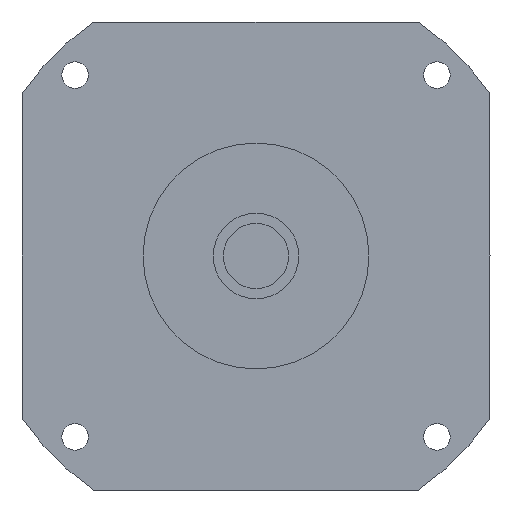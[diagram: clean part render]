
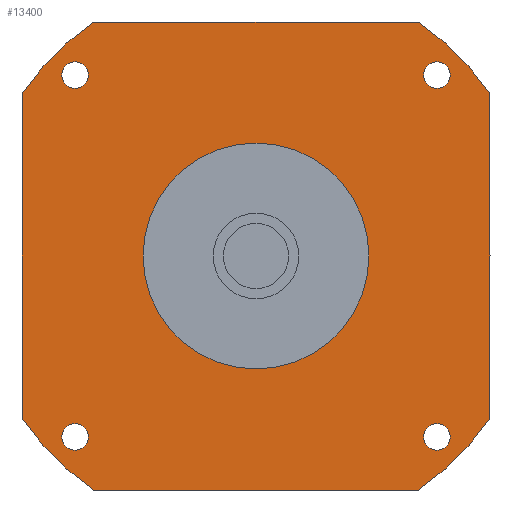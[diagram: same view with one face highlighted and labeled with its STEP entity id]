
A CAD part, left-side view. The second image highlights one B-rep face of the part: STEP entity #13400.
In plain terms, the highlighted planar face has unit normal (-1, 0, 0) as drawn and (0, 0, -1) by its records, which use the part's own axes.
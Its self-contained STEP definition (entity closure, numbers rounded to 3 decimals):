
#11730=CARTESIAN_POINT('',(-41.199,44.449,-47.4));
#11740=VERTEX_POINT('',#11730);
#11770=CARTESIAN_POINT('',(-44.449,44.449,-47.4));
#11780=DIRECTION('',(0.,0.,-1.));
#11790=DIRECTION('',(-1.,0.,0.));
#11800=AXIS2_PLACEMENT_3D('',#11770,#11780,#11790);
#11810=CIRCLE('',#11800,3.25);
#11820=CARTESIAN_POINT('',(-47.699,44.449,-47.4));
#11830=VERTEX_POINT('',#11820);
#11840=EDGE_CURVE('',#11830,#11740,#11810,.T.);
#11960=CARTESIAN_POINT('',(57.5,57.5,-47.4));
#11970=DIRECTION('',(0.,0.,-1.));
#11980=DIRECTION('',(1.,0.,0.));
#11990=AXIS2_PLACEMENT_3D('',#11960,#11970,#11980);
#12000=PLANE('',#11990);
#12010=CARTESIAN_POINT('',(-44.449,-44.449,-47.4));
#12020=DIRECTION('',(0.,0.,-1.));
#12030=DIRECTION('',(0.,-1.,0.));
#12040=AXIS2_PLACEMENT_3D('',#12010,#12020,#12030);
#12050=CIRCLE('',#12040,3.25);
#12060=CARTESIAN_POINT('',(-44.449,-47.699,-47.4));
#12070=VERTEX_POINT('',#12060);
#12080=CARTESIAN_POINT('',(-44.449,-41.199,-47.4));
#12090=VERTEX_POINT('',#12080);
#12100=EDGE_CURVE('',#12070,#12090,#12050,.T.);
#12110=ORIENTED_EDGE('',*,*,#12100,.F.);
#12120=EDGE_CURVE('',#12090,#12070,#12050,.T.);
#12130=ORIENTED_EDGE('',*,*,#12120,.F.);
#12140=EDGE_LOOP('',(#12130,#12110));
#12150=FACE_BOUND('',#12140,.T.);
#12160=ORIENTED_EDGE('',*,*,#11840,.F.);
#12170=EDGE_CURVE('',#11740,#11830,#11810,.T.);
#12180=ORIENTED_EDGE('',*,*,#12170,.F.);
#12190=EDGE_LOOP('',(#12180,#12160));
#12200=FACE_BOUND('',#12190,.T.);
#12210=CARTESIAN_POINT('',(44.449,44.449,-47.4));
#12220=DIRECTION('',(0.,0.,-1.));
#12230=DIRECTION('',(0.,1.,0.));
#12240=AXIS2_PLACEMENT_3D('',#12210,#12220,#12230);
#12250=CIRCLE('',#12240,3.25);
#12260=CARTESIAN_POINT('',(44.449,47.699,-47.4));
#12270=VERTEX_POINT('',#12260);
#12280=CARTESIAN_POINT('',(44.449,41.199,-47.4));
#12290=VERTEX_POINT('',#12280);
#12300=EDGE_CURVE('',#12270,#12290,#12250,.T.);
#12310=ORIENTED_EDGE('',*,*,#12300,.F.);
#12320=EDGE_CURVE('',#12290,#12270,#12250,.T.);
#12330=ORIENTED_EDGE('',*,*,#12320,.F.);
#12340=EDGE_LOOP('',(#12330,#12310));
#12350=FACE_BOUND('',#12340,.T.);
#12360=CARTESIAN_POINT('',(0.,0.,
-47.4));
#12370=DIRECTION('',(0.,0.,1.));
#12380=DIRECTION('',(0.,1.,0.));
#12390=AXIS2_PLACEMENT_3D('',#12360,#12370,#12380);
#12400=CIRCLE('',#12390,27.76);
#12410=CARTESIAN_POINT('',(-27.76,0.,-47.4));
#12420=VERTEX_POINT('',#12410);
#12430=CARTESIAN_POINT('',(27.76,0.,-47.4));
#12440=VERTEX_POINT('',#12430);
#12450=EDGE_CURVE('',#12420,#12440,#12400,.T.);
#12460=ORIENTED_EDGE('',*,*,#12450,.T.);
#12470=CARTESIAN_POINT('',(0.,27.76,-47.4));
#12480=VERTEX_POINT('',#12470);
#12490=EDGE_CURVE('',#12480,#12420,#12400,.T.);
#12500=ORIENTED_EDGE('',*,*,#12490,.T.);
#12510=EDGE_CURVE('',#12440,#12480,#12400,.T.);
#12520=ORIENTED_EDGE('',*,*,#12510,.T.);
#12530=EDGE_LOOP('',(#12520,#12500,#12460));
#12540=FACE_BOUND('',#12530,.T.);
#12550=CARTESIAN_POINT('',(-57.5,57.5,-47.4));
#12560=DIRECTION('',(1.,0.,0.));
#12570=VECTOR('',#12560,1000.);
#12580=LINE('',#12550,#12570);
#12590=CARTESIAN_POINT('',(-39.922,57.5,-47.4));
#12600=VERTEX_POINT('',#12590);
#12610=CARTESIAN_POINT('',(39.922,57.5,-47.4));
#12620=VERTEX_POINT('',#12610);
#12630=EDGE_CURVE('',#12600,#12620,#12580,.T.);
#12640=ORIENTED_EDGE('',*,*,#12630,.T.);
#12650=CARTESIAN_POINT('',(0.,0.,
-47.4));
#12660=DIRECTION('',(0.,0.,-1.));
#12670=DIRECTION('',(1.,0.,0.));
#12680=AXIS2_PLACEMENT_3D('',#12650,#12660,#12670);
#12690=CIRCLE('',#12680,70.);
#12700=CARTESIAN_POINT('',(-57.5,39.922,-47.4));
#12710=VERTEX_POINT('',#12700);
#12720=EDGE_CURVE('',#12710,#12600,#12690,.T.);
#12730=ORIENTED_EDGE('',*,*,#12720,.T.);
#12740=CARTESIAN_POINT('',(-57.5,-57.5,-47.4));
#12750=DIRECTION('',(0.,1.,0.));
#12760=VECTOR('',#12750,1000.);
#12770=LINE('',#12740,#12760);
#12780=CARTESIAN_POINT('',(-57.5,-39.922,-47.4));
#12790=VERTEX_POINT('',#12780);
#12800=EDGE_CURVE('',#12790,#12710,#12770,.T.);
#12810=ORIENTED_EDGE('',*,*,#12800,.T.);
#12820=CARTESIAN_POINT('',(0.,0.,
-47.4));
#12830=DIRECTION('',(0.,0.,-1.));
#12840=DIRECTION('',(1.,0.,0.));
#12850=AXIS2_PLACEMENT_3D('',#12820,#12830,#12840);
#12860=CIRCLE('',#12850,70.);
#12870=CARTESIAN_POINT('',(-39.922,-57.5,-47.4));
#12880=VERTEX_POINT('',#12870);
#12890=EDGE_CURVE('',#12880,#12790,#12860,.T.);
#12900=ORIENTED_EDGE('',*,*,#12890,.T.);
#12910=CARTESIAN_POINT('',(57.5,-57.5,-47.4));
#12920=DIRECTION('',(-1.,0.,0.));
#12930=VECTOR('',#12920,1000.);
#12940=LINE('',#12910,#12930);
#12950=CARTESIAN_POINT('',(39.922,-57.5,-47.4));
#12960=VERTEX_POINT('',#12950);
#12970=EDGE_CURVE('',#12960,#12880,#12940,.T.);
#12980=ORIENTED_EDGE('',*,*,#12970,.T.);
#12990=CARTESIAN_POINT('',(0.,0.,
-47.4));
#13000=DIRECTION('',(0.,0.,-1.));
#13010=DIRECTION('',(1.,0.,0.));
#13020=AXIS2_PLACEMENT_3D('',#12990,#13000,#13010);
#13030=CIRCLE('',#13020,70.);
#13040=CARTESIAN_POINT('',(57.5,-39.922,-47.4));
#13050=VERTEX_POINT('',#13040);
#13060=EDGE_CURVE('',#13050,#12960,#13030,.T.);
#13070=ORIENTED_EDGE('',*,*,#13060,.T.);
#13080=CARTESIAN_POINT('',(57.5,57.5,-47.4));
#13090=DIRECTION('',(0.,-1.,0.));
#13100=VECTOR('',#13090,1000.);
#13110=LINE('',#13080,#13100);
#13120=CARTESIAN_POINT('',(57.5,39.922,-47.4));
#13130=VERTEX_POINT('',#13120);
#13140=EDGE_CURVE('',#13130,#13050,#13110,.T.);
#13150=ORIENTED_EDGE('',*,*,#13140,.T.);
#13160=CARTESIAN_POINT('',(0.,0.,
-47.4));
#13170=DIRECTION('',(0.,0.,-1.));
#13180=DIRECTION('',(1.,0.,0.));
#13190=AXIS2_PLACEMENT_3D('',#13160,#13170,#13180);
#13200=CIRCLE('',#13190,70.);
#13210=EDGE_CURVE('',#12620,#13130,#13200,.T.);
#13220=ORIENTED_EDGE('',*,*,#13210,.T.);
#13230=EDGE_LOOP('',(#13220,#13150,#13070,#12980,#12900,#12810,#12730,
#12640));
#13240=FACE_OUTER_BOUND('',#13230,.T.);
#13250=CARTESIAN_POINT('',(44.449,-44.449,-47.4));
#13260=DIRECTION('',(0.,0.,-1.));
#13270=DIRECTION('',(1.,0.,0.));
#13280=AXIS2_PLACEMENT_3D('',#13250,#13260,#13270);
#13290=CIRCLE('',#13280,3.25);
#13300=CARTESIAN_POINT('',(47.699,-44.449,-47.4));
#13310=VERTEX_POINT('',#13300);
#13320=CARTESIAN_POINT('',(41.199,-44.449,-47.4));
#13330=VERTEX_POINT('',#13320);
#13340=EDGE_CURVE('',#13310,#13330,#13290,.T.);
#13350=ORIENTED_EDGE('',*,*,#13340,.F.);
#13360=EDGE_CURVE('',#13330,#13310,#13290,.T.);
#13370=ORIENTED_EDGE('',*,*,#13360,.F.);
#13380=EDGE_LOOP('',(#13370,#13350));
#13390=FACE_BOUND('',#13380,.T.);
#13400=ADVANCED_FACE('',(#12150,#12200,#12350,#12540,#13240,#13390),
#12000,.T.);
